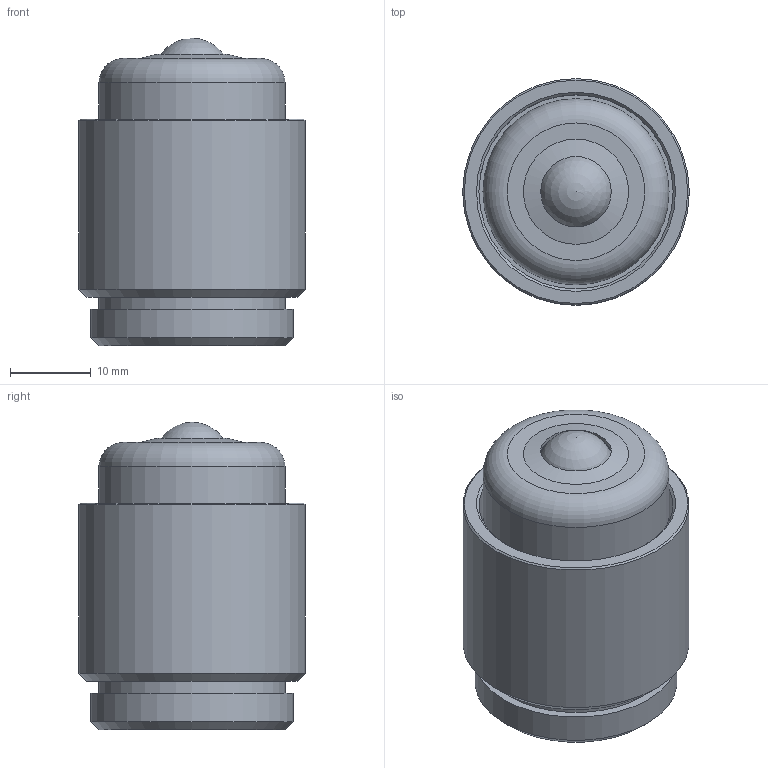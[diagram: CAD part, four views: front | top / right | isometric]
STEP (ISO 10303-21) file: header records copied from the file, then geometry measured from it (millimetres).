
FILE_DESCRIPTION(/* description */ (''),/* implementation_level */ '2;1');
FILE_NAME(/* name */ 'Z:\80-CAD共有ファイル\製品3D\X2\30C730FC30BF\X0\\05-IS-B\IS-10B.stp',/* time_stamp */ '2015-01-06T15:49:52+09:00',/* author */ ('yamaki'),/* organization */ (''),/* preprocessor_version */ 'ST-DEVELOPER v15.6',/* originating_system */ 'Autodesk Inventor 2015',/* authorisation */ '');
FILE_SCHEMA (('AUTOMOTIVE_DESIGN { 1 0 10303 214 3 1 1 }'));
Length unit declared in the file: millimetre
Products named in the file (3): 0510AT-01; 0510AT-02; 0510AA
Bounding box: 28 x 28 x 38 mm (x, y, z)
Volume: 15487.1 mm3; surface area: 8445.9 mm2
Topology: 2 solids, 2 shells, 40 faces, 75 edges, 47 vertices
Faces by surface type: plane 16, cone 11, cylinder 11, torus 1, sphere 1
Full cylindrical faces by diameter (mm): 8.7 x1, 12 x1, 12.5 x1, 18 x1, 19.8 x1, 20 x1, 23 x2, 24 x1, 25 x1, 28 x1
Entity records: 933 total; most frequent: DIRECTION 174, CARTESIAN_POINT 147, ORIENTED_EDGE 100, AXIS2_PLACEMENT_3D 83, EDGE_LOOP 72, EDGE_CURVE 50, VERTEX_POINT 44, FACE_OUTER_BOUND 40
